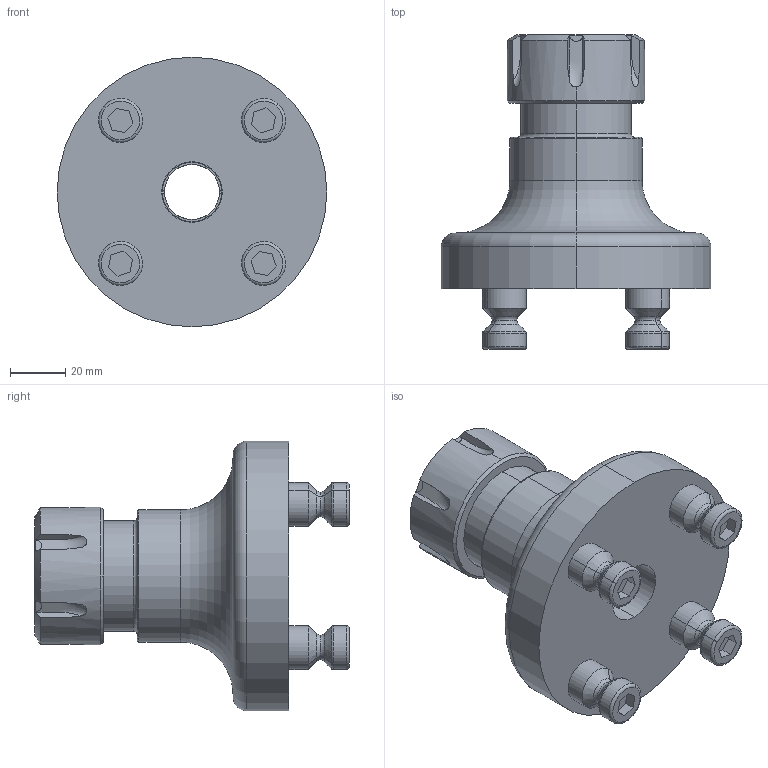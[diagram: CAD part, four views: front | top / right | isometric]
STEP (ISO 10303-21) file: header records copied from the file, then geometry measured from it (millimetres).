
FILE_DESCRIPTION (( 'STEP AP214' ), '1' );
FILE_NAME ('41032.STEP', '2022-01-19T07:20:17', ( '' ), ( '' ), 'SwSTEP 2.0', 'SolidWorks 2021', '' );
FILE_SCHEMA (( 'AUTOMOTIVE_DESIGN' ));
Length unit declared in the file: millimetre
Products named in the file (1): 41032
Bounding box: 98 x 114.35 x 98 mm (x, y, z)
Volume: 266642 mm3; surface area: 64266.4 mm2
Topology: 8 solids, 8 shells, 357 faces, 863 edges, 534 vertices
Faces by surface type: plane 123, cylinder 99, cone 71, torus 40, bspline 24
Entity records: 19013 total; most frequent: CARTESIAN_POINT 6726, DIRECTION 1749, ORIENTED_EDGE 1710, EDGE_CURVE 855, AXIS2_PLACEMENT_3D 699, VERTEX_POINT 534, EDGE_LOOP 385, UNCERTAINTY_MEASURE_WITH_UNIT 367
